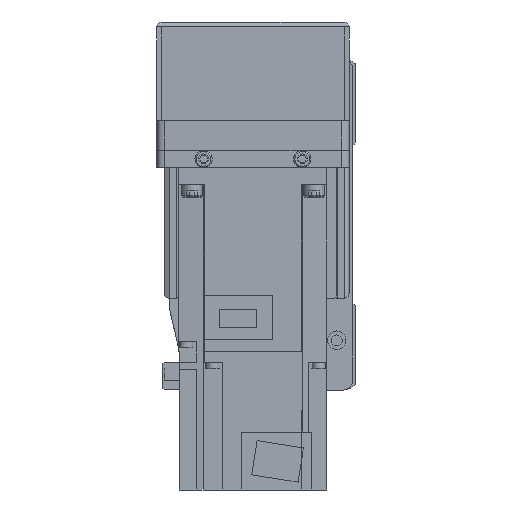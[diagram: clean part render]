
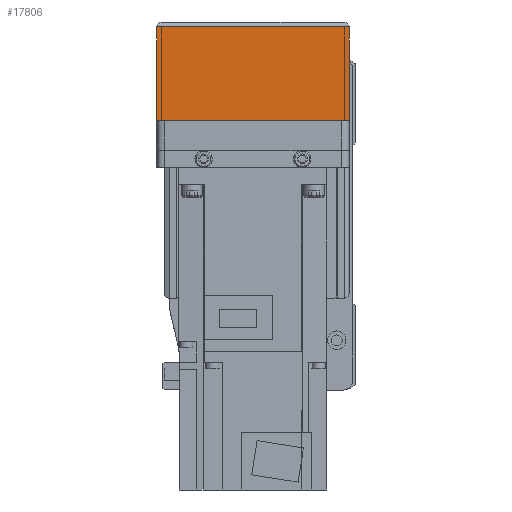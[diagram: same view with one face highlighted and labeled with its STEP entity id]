
A CAD part, left-side view. The second image highlights one B-rep face of the part: STEP entity #17806.
In plain terms, the highlighted planar face has unit normal (-1, 0, 0).
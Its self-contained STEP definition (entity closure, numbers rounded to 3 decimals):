
#2678=ORIENTED_EDGE('',*,*,#7161,.F.);
#2679=ORIENTED_EDGE('',*,*,#7162,.F.);
#2680=ORIENTED_EDGE('',*,*,#7163,.T.);
#2681=ORIENTED_EDGE('',*,*,#7164,.F.);
#7161=EDGE_CURVE('',#9501,#9492,#11338,.T.);
#7162=EDGE_CURVE('',#9518,#9501,#11339,.T.);
#7163=EDGE_CURVE('',#9518,#9519,#11340,.T.);
#7164=EDGE_CURVE('',#9492,#9519,#11341,.T.);
#9492=VERTEX_POINT('',#27352);
#9501=VERTEX_POINT('',#27370);
#9518=VERTEX_POINT('',#27418);
#9519=VERTEX_POINT('',#27420);
#11338=LINE('',#27416,#12951);
#11339=LINE('',#27417,#12952);
#11340=LINE('',#27419,#12953);
#11341=LINE('',#27421,#12954);
#12951=VECTOR('',#21952,1000.);
#12952=VECTOR('',#21953,1000.);
#12953=VECTOR('',#21954,1000.);
#12954=VECTOR('',#21955,1000.);
#14396=EDGE_LOOP('',(#2678,#2679,#2680,#2681));
#15811=FACE_BOUND('',#14396,.T.);
#17067=PLANE('',#19088);
#17806=ADVANCED_FACE('',(#15811),#17067,.F.);
#19088=AXIS2_PLACEMENT_3D('',#27415,#21950,#21951);
#21950=DIRECTION('',(1.,0.,0.));
#21951=DIRECTION('',(0.,0.,-1.));
#21952=DIRECTION('',(0.,-1.,0.));
#21953=DIRECTION('',(0.,0.,1.));
#21954=DIRECTION('',(0.,-1.,0.));
#21955=DIRECTION('',(0.,0.,-1.));
#27352=CARTESIAN_POINT('',(-158.,-39.,-12.1));
#27370=CARTESIAN_POINT('',(-158.,39.,-12.1));
#27415=CARTESIAN_POINT('',(-158.,36.,7.));
#27416=CARTESIAN_POINT('',(-158.,50.,-12.1));
#27417=CARTESIAN_POINT('',(-158.,39.,-50.));
#27418=CARTESIAN_POINT('',(-158.,39.,-50.));
#27419=CARTESIAN_POINT('',(-158.,40.,-50.));
#27420=CARTESIAN_POINT('',(-158.,-39.,-50.));
#27421=CARTESIAN_POINT('',(-158.,-39.,-12.1));
